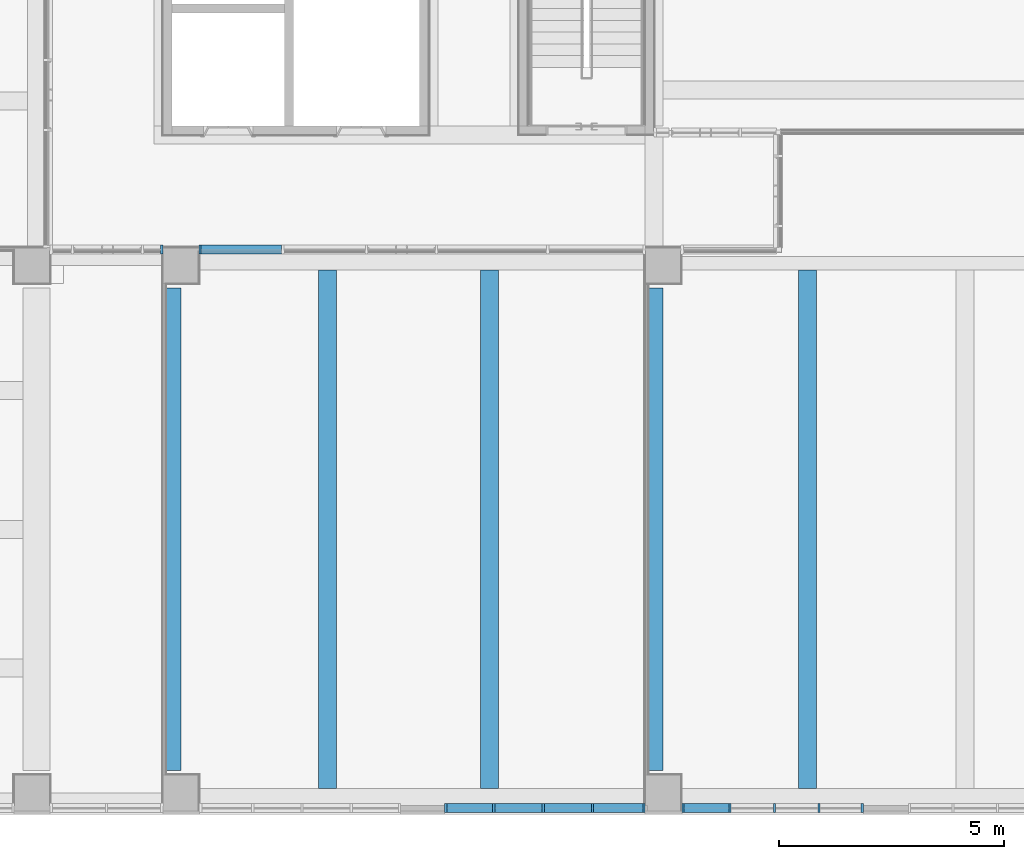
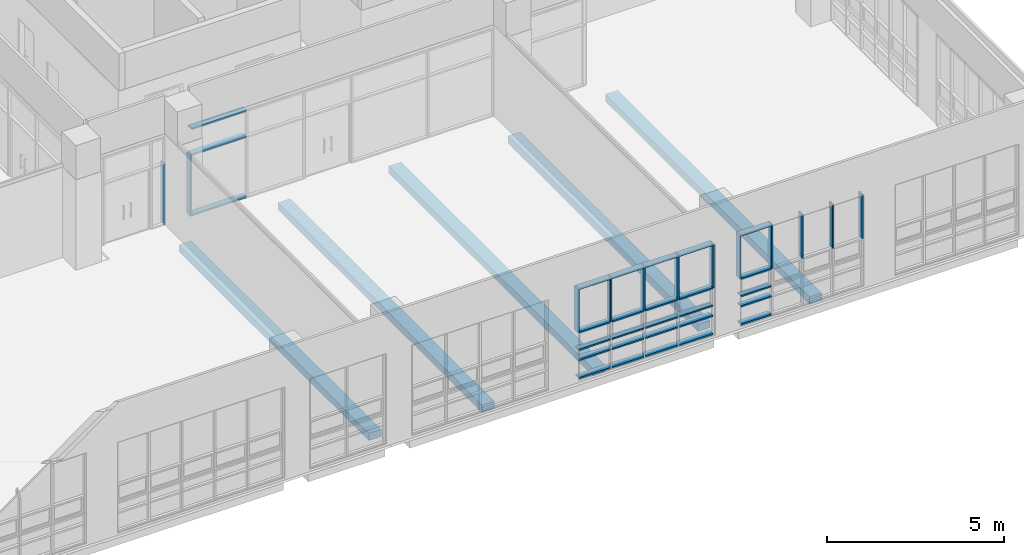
# One storey, part 5 of 74: 40 members, 5 beams, 4 elements without a shape of their own.
"""IFC2X3 building model written with IfcOpenShell, lengths in millimetres."""

import ifcopenshell
import ifcopenshell.guid

model = None  # the IFC model being written
_history = None  # IfcOwnerHistory: only IFC2X3 demands one
_inside = {}  # id of a spatial element -> (the spatial element, [elements in it])
_under = {}  # id of a project, library or spatial element -> (it, [spatial elements below it])
_declared = {}  # id of a project -> (the project, [libraries it declares])
_typed = {}  # id of a type object -> (the type object, [elements of that type])
_made_of = {}  # id of a material, layer set ... -> (it, [elements and type objects made of it])


def new_model(schema):
    """Start an empty IFC model of exactly this schema.

    Asked for "IFC4X3", IfcOpenShell would pick the latest addendum, in which some entities
    have other attributes; the version numbers below select the first issue.
    IFC2X3 requires an IfcOwnerHistory on every rooted entity: one is made here for all.
    """
    global model, _history
    if schema == "IFC4X3":
        model = ifcopenshell.file(schema_version=(4, 3, 0, 0))
    else:
        model = ifcopenshell.file(schema=schema)
    _inside.clear()
    _under.clear()
    _declared.clear()
    _typed.clear()
    _made_of.clear()
    _history = None
    if model.schema == "IFC2X3":
        org = make("IfcOrganization", Name="unknown")
        user = make(
            "IfcPersonAndOrganization",
            ThePerson=make("IfcPerson", FamilyName="unknown"),
            TheOrganization=org,
        )
        app = make(
            "IfcApplication",
            ApplicationDeveloper=org,
            Version="unknown",
            ApplicationFullName="unknown",
            ApplicationIdentifier="unknown",
        )
        _history = make(
            "IfcOwnerHistory",
            OwningUser=user,
            OwningApplication=app,
            ChangeAction="ADDED",
            CreationDate=0,
        )
    return model


def make(cls, **values):
    """One entity of the class cls with the attributes given. An attribute that is None is left unset."""
    return model.create_entity(
        cls, **{name: value for name, value in values.items() if value is not None}
    )


def entity(cls, *values):
    """Any entity or typed value of the class cls, its attributes in the order of the schema. None: left unset."""
    e = model.create_entity(cls)
    for i, value in enumerate(values):
        if value is not None:
            e[i] = value
    return e


def rooted(cls, **values):
    """An entity with a GlobalId (a new one), such as an element, a storey or a relation."""
    return make(cls, GlobalId=ifcopenshell.guid.new(), OwnerHistory=_history, **values)


def si_unit(unit_type, name, prefix=None):
    """IfcSIUnit, for example si_unit("LENGTHUNIT", "METRE", prefix="MILLI")."""
    return make("IfcSIUnit", UnitType=unit_type, Prefix=prefix, Name=name)


def converted_unit(unit_type, name, factor, base, dimensions=None, offset=None):
    """IfcConversionBasedUnit, such as the inch: factor (a typed value) times the base unit."""
    return make(
        "IfcConversionBasedUnit"
        if offset is None
        else "IfcConversionBasedUnitWithOffset",
        ConversionOffset=offset,
        Dimensions=None
        if dimensions is None
        else entity("IfcDimensionalExponents", *dimensions),
        UnitType=unit_type,
        Name=name,
        ConversionFactor=make(
            "IfcMeasureWithUnit", ValueComponent=factor, UnitComponent=base
        ),
    )


def derived_unit(unit_type, elements):
    """IfcDerivedUnit: a product of units, each with its exponent."""
    return make(
        "IfcDerivedUnit",
        Elements=[
            make("IfcDerivedUnitElement", Unit=unit, Exponent=power)
            for unit, power in elements
        ],
        UnitType=unit_type,
    )


def assignment(units):
    """IfcUnitAssignment: the units of a project."""
    return None if units is None else make("IfcUnitAssignment", Units=units)


def point(xyz):
    """IfcCartesianPoint."""
    return None if xyz is None else make("IfcCartesianPoint", Coordinates=xyz)


def direction(xyz):
    """IfcDirection."""
    return None if xyz is None else make("IfcDirection", DirectionRatios=xyz)


def frame(location, z_axis=None, x_axis=None):
    """IfcAxis2Placement3D, a coordinate frame: its origin and axes. An axis left out is left unset."""
    return make(
        "IfcAxis2Placement3D",
        Location=point(location),
        Axis=direction(z_axis),
        RefDirection=direction(x_axis),
    )


def frame_2d(location, x_axis=None):
    """IfcAxis2Placement2D, a coordinate frame in the plane: its origin and x axis."""
    return make(
        "IfcAxis2Placement2D", Location=point(location), RefDirection=direction(x_axis)
    )


def origin():
    """The frame at (0, 0, 0) with its axes left unset."""
    return frame((0.0, 0.0, 0.0))


def origin_2d_with_axis():
    """The frame at (0, 0) in the plane with the x axis (1, 0) written out."""
    return frame_2d((0.0, 0.0), x_axis=(1.0, 0.0))


def place(relative_to, where):
    """IfcLocalPlacement: puts the frame where relative to a parent placement (None: the world)."""
    return make(
        "IfcLocalPlacement", PlacementRelTo=relative_to, RelativePlacement=where
    )


def context(
    kind, dimensions, precision=None, world=None, true_north=None, identifier=None
):
    """IfcGeometricRepresentationContext, for example the 3D "Model" context."""
    return make(
        "IfcGeometricRepresentationContext",
        ContextIdentifier=identifier,
        ContextType=kind,
        CoordinateSpaceDimension=dimensions,
        Precision=precision,
        WorldCoordinateSystem=world,
        TrueNorth=true_north,
    )


def subcontext(parent, identifier, kind, view, scale=None):
    """IfcGeometricRepresentationSubContext, for example "Body" below "Model"."""
    return make(
        "IfcGeometricRepresentationSubContext",
        ContextIdentifier=identifier,
        ContextType=kind,
        ParentContext=parent,
        TargetScale=scale,
        TargetView=view,
    )


def project(units=None, contexts=None):
    """IfcProject with its units and contexts."""
    return rooted(
        "IfcProject",
        Name="project",
        RepresentationContexts=contexts,
        UnitsInContext=assignment(units),
    )


def spatial(cls, under=None, at=None, **own):
    """A site, building, storey or space (cls), placed at a placement, below another one or the project."""
    s = rooted(cls, ObjectPlacement=at, **own)
    if under is not None:
        _under.setdefault(under.id(), (under, []))[1].append(s)
    return s


def profile(cls, at=None, kind="AREA", **sizes):
    """A parametric profile (cls). Its sizes go by their IFC names, for example OverallWidth=200.0."""
    return make(cls, ProfileType=kind, Position=at, **sizes)


def rectangle(**sizes):
    """IfcRectangleProfileDef."""
    return profile("IfcRectangleProfileDef", **sizes)


def extrude(swept, where, along, depth):
    """IfcExtrudedAreaSolid: the profile swept, set in the frame where, extruded along a direction by depth."""
    return make(
        "IfcExtrudedAreaSolid",
        SweptArea=swept,
        Position=where,
        ExtrudedDirection=direction(along),
        Depth=depth,
    )


def shape(context_of_items, identifier, shape_type, items):
    """IfcShapeRepresentation: the items that make up one representation, for example the "Body"."""
    return make(
        "IfcShapeRepresentation",
        ContextOfItems=context_of_items,
        RepresentationIdentifier=identifier,
        RepresentationType=shape_type,
        Items=items,
    )


def source(mapping_origin, context_of_items, identifier, shape_type, items):
    """IfcRepresentationMap: a shape defined once, which mapped items show again and again."""
    return make(
        "IfcRepresentationMap",
        MappingOrigin=mapping_origin,
        MappedRepresentation=shape(context_of_items, identifier, shape_type, items),
    )


def transform(
    local_origin,
    x_axis=None,
    y_axis=None,
    z_axis=None,
    scale=None,
    scale2=None,
    scale3=None,
    uniform=True,
):
    """IfcCartesianTransformationOperator3D, or its non-uniform kind. x_axis, y_axis, z_axis: its Axis1, 2, 3."""
    if uniform:
        return make(
            "IfcCartesianTransformationOperator3D",
            Axis1=direction(x_axis),
            Axis2=direction(y_axis),
            LocalOrigin=point(local_origin),
            Scale=scale,
            Axis3=direction(z_axis),
        )
    return make(
        "IfcCartesianTransformationOperator3DnonUniform",
        Axis1=direction(x_axis),
        Axis2=direction(y_axis),
        LocalOrigin=point(local_origin),
        Scale=scale,
        Axis3=direction(z_axis),
        Scale2=scale2,
        Scale3=scale3,
    )


def mapped(mapping_source, mapping_target):
    """IfcMappedItem: shows the shape of a source again, moved by a transform."""
    return make(
        "IfcMappedItem", MappingSource=mapping_source, MappingTarget=mapping_target
    )


def material(Name=None, Category=None):
    """IfcMaterial."""
    return make("IfcMaterial", Name=Name, Category=Category)


def made_of(thing, what):
    """Note that an element or type object is made of a material, layer set ...; save() writes the relation."""
    if what is not None:
        _made_of.setdefault(what.id(), (what, []))[1].append(thing)
    return thing


def type_object(cls, material=None, **own):
    """A type object (cls), such as IfcWallType, which elements share."""
    return made_of(rooted(cls, **own), material)


def type_shapes(of_type, sources):
    """Give a type object the sources (RepresentationMaps) that its elements show as mapped items."""
    of_type.RepresentationMaps = sources


def element(
    cls,
    number,
    at=None,
    inside=None,
    cuts=None,
    type_object=None,
    material=None,
    context=None,
    identifier="Body",
    shape_type=None,
    held_by="IfcProductDefinitionShape",
    body=None,
    shapes=None,
    **own,
):
    """One element of the class cls, such as IfcWall. Its Tag is "e" and its number.

    at: its placement. inside: the storey or other place that contains it. cuts: it is an
    opening in that element (IfcRelVoidsElement). A single representation is given by context,
    identifier, shape_type and body (its items); several are given by shapes. held_by: the class
    of the entity that holds the representations. save() writes the other relations.
    """
    e = rooted(cls, Tag="e%d" % number, ObjectPlacement=at, **own)
    if body is not None:
        shapes = [shape(context, identifier, shape_type, body)]
    if shapes is not None:
        e.Representation = make(held_by, Representations=shapes)
    if inside is not None:
        _inside.setdefault(inside.id(), (inside, []))[1].append(e)
    if cuts is not None:
        rooted(
            "IfcRelVoidsElement", RelatingBuildingElement=cuts, RelatedOpeningElement=e
        )
    if type_object is not None:
        _typed.setdefault(type_object.id(), (type_object, []))[1].append(e)
    return made_of(e, material)


def aggregate(whole, parts):
    """IfcRelAggregates: a whole, such as a stair, and the parts it consists of."""
    return rooted("IfcRelAggregates", RelatingObject=whole, RelatedObjects=parts)


def save(model, path):
    """Write the relations noted so far, then the file.

    IfcRelAggregates (storeys below a building ...), IfcRelContainedInSpatialStructure (elements
    in a storey), IfcRelDefinesByType, IfcRelAssociatesMaterial and IfcRelDeclares: one each for
    every whole, place, type object, material and project.
    """
    for whole, parts in _under.values():
        aggregate(whole, parts)
    for where, things in _inside.values():
        rooted(
            "IfcRelContainedInSpatialStructure",
            RelatedElements=things,
            RelatingStructure=where,
        )
    for kind, things in _typed.values():
        rooted("IfcRelDefinesByType", RelatedObjects=things, RelatingType=kind)
    for what, things in _made_of.values():
        rooted("IfcRelAssociatesMaterial", RelatedObjects=things, RelatingMaterial=what)
    for by, libraries in _declared.values():
        rooted("IfcRelDeclares", RelatingContext=by, RelatedDefinitions=libraries)
    model.write(path)


model = new_model("IFC2X3")

# Units and contexts
model_context = context("Model", 3, precision=0.01, world=origin(), true_north=direction((6.123031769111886e-17, 1.0)))
body_context = subcontext(model_context, "Body", "Model", "MODEL_VIEW")
ifc_project = project(units=[si_unit("LENGTHUNIT", "METRE", prefix="MILLI"), si_unit("AREAUNIT", "SQUARE_METRE"), si_unit("VOLUMEUNIT", "CUBIC_METRE"), converted_unit("PLANEANGLEUNIT", "DEGREE", entity("IfcRatioMeasure", 0.017453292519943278), si_unit("PLANEANGLEUNIT", "RADIAN"), dimensions=[0, 0, 0, 0, 0, 0, 0]), si_unit("MASSUNIT", "GRAM", prefix="KILO"), derived_unit("MASSDENSITYUNIT", [(si_unit("MASSUNIT", "GRAM", prefix="KILO"), 1), (si_unit("LENGTHUNIT", "METRE"), -3)]), derived_unit("MOMENTOFINERTIAUNIT", [(si_unit("LENGTHUNIT", "METRE"), 4)]), si_unit("TIMEUNIT", "SECOND"), si_unit("FREQUENCYUNIT", "HERTZ"), si_unit("THERMODYNAMICTEMPERATUREUNIT", "DEGREE_CELSIUS"), derived_unit("THERMALTRANSMITTANCEUNIT", [(si_unit("MASSUNIT", "GRAM", prefix="KILO"), 1), (si_unit("THERMODYNAMICTEMPERATUREUNIT", "KELVIN"), -1), (si_unit("TIMEUNIT", "SECOND"), -3)]), derived_unit("VOLUMETRICFLOWRATEUNIT", [(si_unit("LENGTHUNIT", "METRE"), 3), (si_unit("TIMEUNIT", "SECOND"), -1)]), derived_unit("MASSFLOWRATEUNIT", [(si_unit("MASSUNIT", "GRAM", prefix="KILO"), 1), (si_unit("TIMEUNIT", "SECOND"), -1)]), derived_unit("ROTATIONALFREQUENCYUNIT", [(si_unit("TIMEUNIT", "SECOND"), -1)]), si_unit("ELECTRICCURRENTUNIT", "AMPERE"), si_unit("ELECTRICVOLTAGEUNIT", "VOLT"), si_unit("POWERUNIT", "WATT"), si_unit("FORCEUNIT", "NEWTON", prefix="KILO"), si_unit("ILLUMINANCEUNIT", "LUX"), si_unit("LUMINOUSFLUXUNIT", "LUMEN"), si_unit("LUMINOUSINTENSITYUNIT", "CANDELA"), derived_unit("USERDEFINED", [(si_unit("MASSUNIT", "GRAM", prefix="KILO"), -1), (si_unit("LENGTHUNIT", "METRE"), -2), (si_unit("TIMEUNIT", "SECOND"), 3), (si_unit("LUMINOUSFLUXUNIT", "LUMEN"), 1)]), derived_unit("SOUNDPOWERUNIT", [(si_unit("MASSUNIT", "GRAM", prefix="KILO"), 1), (si_unit("LENGTHUNIT", "METRE"), 2), (si_unit("TIMEUNIT", "SECOND"), -3)]), derived_unit("SOUNDPRESSUREUNIT", [(si_unit("MASSUNIT", "GRAM", prefix="KILO"), 1), (si_unit("LENGTHUNIT", "METRE"), -1), (si_unit("TIMEUNIT", "SECOND"), -2)]), derived_unit("LINEARVELOCITYUNIT", [(si_unit("LENGTHUNIT", "METRE"), 1), (si_unit("TIMEUNIT", "SECOND"), -1)]), si_unit("PRESSUREUNIT", "PASCAL"), derived_unit("USERDEFINED", [(si_unit("LENGTHUNIT", "METRE"), -2), (si_unit("MASSUNIT", "GRAM", prefix="KILO"), 1), (si_unit("TIMEUNIT", "SECOND"), -2)]), derived_unit("LINEARFORCEUNIT", [(si_unit("MASSUNIT", "GRAM", prefix="KILO"), 1), (si_unit("LENGTHUNIT", "METRE"), 1), (si_unit("TIMEUNIT", "SECOND"), -2), (si_unit("LENGTHUNIT", "METRE"), -1)]), derived_unit("PLANARFORCEUNIT", [(si_unit("MASSUNIT", "GRAM", prefix="KILO"), 1), (si_unit("LENGTHUNIT", "METRE"), 1), (si_unit("TIMEUNIT", "SECOND"), -2), (si_unit("LENGTHUNIT", "METRE"), -2)])], contexts=[model_context])

# Site, building, storey
site_placement = place(None, frame((-14167.972527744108, -657.2125860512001, 0.0)))
site = spatial("IfcSite", under=ifc_project, at=site_placement, Name="Default", CompositionType="ELEMENT")
building_placement = place(site_placement, origin())
building = spatial("IfcBuilding", under=site, at=building_placement, Name="Sample Building", CompositionType="ELEMENT")
storey_placement = place(building_placement, frame((0.0, 0.0, 4800.0)))
storey = spatial("IfcBuildingStorey", under=building, at=storey_placement, Name="지상 2층", CompositionType="ELEMENT", Elevation=4800.000000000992)

# Curtain wall, member
curtain_wall_type = type_object("IfcCurtainWallType", Name="커튼월:CW112-스테인리스 스틸 커튼월", PredefinedType="NOTDEFINED")
curtain_wall_1_placement = place(storey_placement, frame((0.0, 0.0, -4800.0)))
curtain_wall_1 = element("IfcCurtainWall", 1, at=curtain_wall_1_placement, inside=storey, type_object=curtain_wall_type, Name="커튼월:CW112-스테인리스 스틸 커튼월", ObjectType="커튼월:CW112-스테인리스 스틸 커튼월")
ifc_material_1 = material(Name="<Unnamed>")
member_type_1 = type_object("IfcMemberType", Name="직사각형 멀리언:CW200-직사각형 멀리언 50x200mm", PredefinedType="MULLION", material=ifc_material_1)
shared_shape_1 = source(origin(), body_context, "Body", "SweptSolid", [
    extrude(rectangle(XDim=200.0, YDim=50.0, at=origin_2d_with_axis()), frame((-25.0, 0.0, -2100.0), z_axis=(0.0, 0.0, 1.0), x_axis=(0.0, -1.0, 0.0)), (0.0, 0.0, 1.0), 2099.9999999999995),
])
type_shapes(member_type_1, [shared_shape_1])
member_1_placement = place(curtain_wall_1_placement, frame((30867.97249113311, 13012.212307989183, 6980.0), z_axis=(0.0, 0.0, 1.0), x_axis=(-1.0, 0.0, 0.0)))
member_1 = element("IfcMember", 2, at=member_1_placement, type_object=member_type_1, material=ifc_material_1, Name="직사각형 멀리언:CW200-직사각형 멀리언 50x200mm", ObjectType="직사각형 멀리언:CW200-직사각형 멀리언 50x200mm", context=body_context, shape_type="MappedRepresentation", body=[
    mapped(shared_shape_1, transform((0.0, 0.0, 0.0), scale=1.0)),
])

curtain_wall_2_placement = place(storey_placement, frame((0.0, 0.0, -4800.0)))
curtain_wall_2 = element("IfcCurtainWall", 3, at=curtain_wall_2_placement, inside=storey, type_object=curtain_wall_type, Name="커튼월:CW112-스테인리스 스틸 커튼월", ObjectType="커튼월:CW112-스테인리스 스틸 커튼월")
member_type_2 = type_object("IfcMemberType", Name="직사각형 멀리언:CW200-직사각형 멀리언 50x200mm", PredefinedType="MULLION", material=ifc_material_1)
shared_shape_2 = source(origin(), body_context, "Body", "SweptSolid", [
    extrude(rectangle(XDim=200.0, YDim=50.0, at=origin_2d_with_axis()), frame((-25.0, 0.0, -1520.0), z_axis=(0.0, 0.0, 1.0), x_axis=(0.0, -1.0, 0.0)), (0.0, 0.0, 1.0), 1520.0000000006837),
])
type_shapes(member_type_2, [shared_shape_2])
member_2_placement = place(curtain_wall_2_placement, frame((36318.14751886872, 619.7122951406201, 8000.0), z_axis=(0.0, 0.0, 1.0), x_axis=(-1.0, 0.0, 0.0)))
member_2 = element("IfcMember", 4, at=member_2_placement, type_object=member_type_2, material=ifc_material_1, Name="직사각형 멀리언:CW200-직사각형 멀리언 50x200mm", ObjectType="직사각형 멀리언:CW200-직사각형 멀리언 50x200mm", context=body_context, shape_type="MappedRepresentation", body=[
    mapped(shared_shape_2, transform((0.0, 0.0, 0.0), scale=1.0)),
])

curtain_wall_3_placement = place(storey_placement, frame((0.0, 0.0, -4800.0)))
curtain_wall_3 = element("IfcCurtainWall", 5, at=curtain_wall_3_placement, inside=storey, type_object=curtain_wall_type, Name="커튼월:CW112-스테인리스 스틸 커튼월", ObjectType="커튼월:CW112-스테인리스 스틸 커튼월")
member_3_placement = place(curtain_wall_3_placement, frame((41585.972491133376, 619.7122951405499, 8000.0), z_axis=(0.0, 0.0, 1.0), x_axis=(-1.0, 0.0, 0.0)))
member_3 = element("IfcMember", 6, at=member_3_placement, type_object=member_type_2, material=ifc_material_1, Name="직사각형 멀리언:CW200-직사각형 멀리언 50x200mm", ObjectType="직사각형 멀리언:CW200-직사각형 멀리언 50x200mm", context=body_context, shape_type="MappedRepresentation", body=[
    mapped(shared_shape_2, transform((0.0, 0.0, 0.0), scale=1.0)),
])

# Member
member_type_3 = type_object("IfcMemberType", Name="직사각형 멀리언:CW200-직사각형 멀리언 50x200mm", PredefinedType="MULLION", material=ifc_material_1)
shared_shape_3 = source(origin(), body_context, "Body", "SweptSolid", [
    extrude(rectangle(XDim=200.0, YDim=50.0, at=origin_2d_with_axis()), frame((-25.0, 0.0, -1520.0), z_axis=(0.0, 0.0, 1.0), x_axis=(0.0, -1.0, 0.0)), (0.0, 0.0, 1.0), 1520.0000000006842),
])
type_shapes(member_type_3, [shared_shape_3])
member_4_placement = place(curtain_wall_2_placement, frame((40767.97249113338, 619.7122951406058, 6480.0), z_axis=(0.0, 0.0, -1.0), x_axis=(1.0, 0.0, 0.0)))
member_4 = element("IfcMember", 7, at=member_4_placement, type_object=member_type_3, material=ifc_material_1, Name="직사각형 멀리언:CW200-직사각형 멀리언 50x200mm", ObjectType="직사각형 멀리언:CW200-직사각형 멀리언 50x200mm", context=body_context, shape_type="MappedRepresentation", body=[
    mapped(shared_shape_3, transform((0.0, 0.0, 0.0), scale=1.0)),
])

member_5_placement = place(curtain_wall_3_placement, frame((45612.07127232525, 619.712295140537, 6480.0), z_axis=(0.0, 0.0, -1.0), x_axis=(1.0, 0.0, 0.0)))
member_5 = element("IfcMember", 8, at=member_5_placement, type_object=member_type_3, material=ifc_material_1, Name="직사각형 멀리언:CW200-직사각형 멀리언 50x200mm", ObjectType="직사각형 멀리언:CW200-직사각형 멀리언 50x200mm", context=body_context, shape_type="MappedRepresentation", body=[
    mapped(shared_shape_3, transform((0.0, 0.0, 0.0), scale=1.0)),
])

member_type_4 = type_object("IfcMemberType", Name="직사각형 멀리언:CW200-직사각형 멀리언 50x200mm", PredefinedType="MULLION", material=ifc_material_1)
shared_shape_4 = source(origin(), body_context, "Body", "SweptSolid", [
    extrude(rectangle(XDim=200.0, YDim=50.0, at=origin_2d_with_axis()), frame((0.0, 0.0, -1520.0), z_axis=(0.0, 0.0, 1.0), x_axis=(0.0, -1.0, 0.0)), (0.0, 0.0, 1.0), 1520.0000000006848),
])
type_shapes(member_type_4, [shared_shape_4])
member_6_placement = place(curtain_wall_2_placement, frame((37411.89751886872, 619.7122951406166, 6480.0), z_axis=(0.0, 0.0, -1.0), x_axis=(1.0, 0.0, 0.0)))
member_6 = element("IfcMember", 9, at=member_6_placement, type_object=member_type_4, material=ifc_material_1, Name="직사각형 멀리언:CW200-직사각형 멀리언 50x200mm", ObjectType="직사각형 멀리언:CW200-직사각형 멀리언 50x200mm", context=body_context, shape_type="MappedRepresentation", body=[
    mapped(shared_shape_4, transform((0.0, 0.0, 0.0), scale=1.0)),
])

member_7_placement = place(curtain_wall_2_placement, frame((38505.64751886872, 619.712295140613, 6480.0), z_axis=(0.0, 0.0, -1.0), x_axis=(1.0, 0.0, 0.0)))
member_7 = element("IfcMember", 10, at=member_7_placement, type_object=member_type_4, material=ifc_material_1, Name="직사각형 멀리언:CW200-직사각형 멀리언 50x200mm", ObjectType="직사각형 멀리언:CW200-직사각형 멀리언 50x200mm", context=body_context, shape_type="MappedRepresentation", body=[
    mapped(shared_shape_4, transform((0.0, 0.0, 0.0), scale=1.0)),
])

member_8_placement = place(curtain_wall_2_placement, frame((39599.39751886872, 619.7122951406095, 6480.0), z_axis=(0.0, 0.0, -1.0), x_axis=(1.0, 0.0, 0.0)))
member_8 = element("IfcMember", 11, at=member_8_placement, type_object=member_type_4, material=ifc_material_1, Name="직사각형 멀리언:CW200-직사각형 멀리언 50x200mm", ObjectType="직사각형 멀리언:CW200-직사각형 멀리언 50x200mm", context=body_context, shape_type="MappedRepresentation", body=[
    mapped(shared_shape_4, transform((0.0, 0.0, 0.0), scale=1.0)),
])

member_9_placement = place(curtain_wall_3_placement, frame((42649.57127232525, 619.7122951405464, 6480.0), z_axis=(0.0, 0.0, -1.0), x_axis=(1.0, 0.0, 0.0)))
member_9 = element("IfcMember", 12, at=member_9_placement, type_object=member_type_4, material=ifc_material_1, Name="직사각형 멀리언:CW200-직사각형 멀리언 50x200mm", ObjectType="직사각형 멀리언:CW200-직사각형 멀리언 50x200mm", context=body_context, shape_type="MappedRepresentation", body=[
    mapped(shared_shape_4, transform((0.0, 0.0, 0.0), scale=1.0)),
])

member_10_placement = place(curtain_wall_3_placement, frame((43637.07127232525, 619.7122951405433, 6480.0), z_axis=(0.0, 0.0, -1.0), x_axis=(1.0, 0.0, 0.0)))
member_10 = element("IfcMember", 13, at=member_10_placement, type_object=member_type_4, material=ifc_material_1, Name="직사각형 멀리언:CW200-직사각형 멀리언 50x200mm", ObjectType="직사각형 멀리언:CW200-직사각형 멀리언 50x200mm", context=body_context, shape_type="MappedRepresentation", body=[
    mapped(shared_shape_4, transform((0.0, 0.0, 0.0), scale=1.0)),
])

member_11_placement = place(curtain_wall_3_placement, frame((44624.57127232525, 619.7122951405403, 6480.0), z_axis=(0.0, 0.0, -1.0), x_axis=(1.0, 0.0, 0.0)))
member_11 = element("IfcMember", 14, at=member_11_placement, type_object=member_type_4, material=ifc_material_1, Name="직사각형 멀리언:CW200-직사각형 멀리언 50x200mm", ObjectType="직사각형 멀리언:CW200-직사각형 멀리언 50x200mm", context=body_context, shape_type="MappedRepresentation", body=[
    mapped(shared_shape_4, transform((0.0, 0.0, 0.0), scale=1.0)),
])

member_type_5 = type_object("IfcMemberType", Name="직사각형 멀리언:CW200-직사각형 멀리언 50x200mm", PredefinedType="MULLION", material=ifc_material_1)
shared_shape_5 = source(origin(), body_context, "Body", "SweptSolid", [
    extrude(rectangle(XDim=200.0, YDim=50.0, at=origin_2d_with_axis()), frame((-25.0, 0.0, -1018.7499999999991), z_axis=(0.0, 0.0, 1.0), x_axis=(0.0, -1.0, 0.0)), (0.0, 0.0, 1.0), 1018.7499999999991),
])
type_shapes(member_type_5, [shared_shape_5])
member_12_placement = place(curtain_wall_2_placement, frame((37386.89751886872, 619.7122951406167, 8000.0), z_axis=(1.0, 0.0, 0.0), x_axis=(0.0, 0.0, 1.0)))
member_12 = element("IfcMember", 15, at=member_12_placement, type_object=member_type_5, material=ifc_material_1, Name="직사각형 멀리언:CW200-직사각형 멀리언 50x200mm", ObjectType="직사각형 멀리언:CW200-직사각형 멀리언 50x200mm", context=body_context, shape_type="MappedRepresentation", body=[
    mapped(shared_shape_5, transform((0.0, 0.0, 0.0), scale=1.0)),
])

member_type_6 = type_object("IfcMemberType", Name="직사각형 멀리언:CW200-직사각형 멀리언 50x200mm", PredefinedType="MULLION", material=ifc_material_1)
shared_shape_6 = source(origin(), body_context, "Body", "SweptSolid", [
    extrude(rectangle(XDim=200.0, YDim=50.0, at=origin_2d_with_axis()), frame((-25.0, 0.0, -1043.7499999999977), z_axis=(0.0, 0.0, 1.0), x_axis=(0.0, -1.0, 0.0)), (0.0, 0.0, 1.0), 1043.7499999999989),
])
type_shapes(member_type_6, [shared_shape_6])
member_13_placement = place(curtain_wall_2_placement, frame((37436.89751886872, 619.7122951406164, 4880.0), z_axis=(-1.0, 0.0, 0.0), x_axis=(0.0, 0.0, -1.0)))
member_13 = element("IfcMember", 16, at=member_13_placement, type_object=member_type_6, material=ifc_material_1, Name="직사각형 멀리언:CW200-직사각형 멀리언 50x200mm", ObjectType="직사각형 멀리언:CW200-직사각형 멀리언 50x200mm", context=body_context, shape_type="MappedRepresentation", body=[
    mapped(shared_shape_6, transform((0.0, 0.0, 0.0), scale=1.0)),
])

member_14_placement = place(curtain_wall_2_placement, frame((38530.64751886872, 619.7122951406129, 4880.0), z_axis=(-1.0, 0.0, 0.0), x_axis=(0.0, 0.0, -1.0)))
member_14 = element("IfcMember", 17, at=member_14_placement, type_object=member_type_6, material=ifc_material_1, Name="직사각형 멀리언:CW200-직사각형 멀리언 50x200mm", ObjectType="직사각형 멀리언:CW200-직사각형 멀리언 50x200mm", context=body_context, shape_type="MappedRepresentation", body=[
    mapped(shared_shape_6, transform((0.0, 0.0, 0.0), scale=1.0)),
])

member_type_7 = type_object("IfcMemberType", Name="직사각형 멀리언:CW200-직사각형 멀리언 50x200mm", PredefinedType="MULLION", material=ifc_material_1)
shared_shape_7 = source(origin(), body_context, "Body", "SweptSolid", [
    extrude(rectangle(XDim=200.0, YDim=50.0, at=origin_2d_with_axis()), frame((-25.0, 0.0, -1043.7500000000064), z_axis=(0.0, 0.0, 1.0), x_axis=(0.0, -1.0, 0.0)), (0.0, 0.0, 1.0), 1043.7500000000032),
])
type_shapes(member_type_7, [shared_shape_7])
member_15_placement = place(curtain_wall_2_placement, frame((38480.64751886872, 619.7122951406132, 8000.0), z_axis=(1.0, 0.0, 0.0), x_axis=(0.0, 0.0, 1.0)))
member_15 = element("IfcMember", 18, at=member_15_placement, type_object=member_type_7, material=ifc_material_1, Name="직사각형 멀리언:CW200-직사각형 멀리언 50x200mm", ObjectType="직사각형 멀리언:CW200-직사각형 멀리언 50x200mm", context=body_context, shape_type="MappedRepresentation", body=[
    mapped(shared_shape_7, transform((0.0, 0.0, 0.0), scale=1.0)),
])

member_16_placement = place(curtain_wall_2_placement, frame((39574.39751886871, 619.7122951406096, 8000.0), z_axis=(1.0, 0.0, 0.0), x_axis=(0.0, 0.0, 1.0)))
member_16 = element("IfcMember", 19, at=member_16_placement, type_object=member_type_7, material=ifc_material_1, Name="직사각형 멀리언:CW200-직사각형 멀리언 50x200mm", ObjectType="직사각형 멀리언:CW200-직사각형 멀리언 50x200mm", context=body_context, shape_type="MappedRepresentation", body=[
    mapped(shared_shape_7, transform((0.0, 0.0, 0.0), scale=1.0)),
])

member_type_8 = type_object("IfcMemberType", Name="직사각형 멀리언:CW200-직사각형 멀리언 50x200mm", PredefinedType="MULLION", material=ifc_material_1)
shared_shape_8 = source(origin(), body_context, "Body", "SweptSolid", [
    extrude(rectangle(XDim=200.0, YDim=50.0, at=origin_2d_with_axis()), frame((0.0, 0.0, -1043.7500000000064), z_axis=(0.0, 0.0, 1.0), x_axis=(0.0, -1.0, 0.0)), (0.0, 0.0, 1.0), 1043.7500000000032),
])
type_shapes(member_type_8, [shared_shape_8])
member_17_placement = place(curtain_wall_2_placement, frame((38480.64751886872, 619.7122951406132, 6480.0), z_axis=(1.0, 0.0, 0.0), x_axis=(0.0, 0.0, 1.0)))
member_17 = element("IfcMember", 20, at=member_17_placement, type_object=member_type_8, material=ifc_material_1, Name="직사각형 멀리언:CW200-직사각형 멀리언 50x200mm", ObjectType="직사각형 멀리언:CW200-직사각형 멀리언 50x200mm", context=body_context, shape_type="MappedRepresentation", body=[
    mapped(shared_shape_8, transform((0.0, 0.0, 0.0), scale=1.0)),
])

member_18_placement = place(curtain_wall_2_placement, frame((38480.64751886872, 619.7122951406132, 5880.0), z_axis=(1.0, 0.0, 0.0), x_axis=(0.0, 0.0, 1.0)))
member_18 = element("IfcMember", 21, at=member_18_placement, type_object=member_type_8, material=ifc_material_1, Name="직사각형 멀리언:CW200-직사각형 멀리언 50x200mm", ObjectType="직사각형 멀리언:CW200-직사각형 멀리언 50x200mm", context=body_context, shape_type="MappedRepresentation", body=[
    mapped(shared_shape_8, transform((0.0, 0.0, 0.0), scale=1.0)),
])

member_19_placement = place(curtain_wall_2_placement, frame((38480.64751886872, 619.7122951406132, 5530.0), z_axis=(1.0, 0.0, 0.0), x_axis=(0.0, 0.0, 1.0)))
member_19 = element("IfcMember", 22, at=member_19_placement, type_object=member_type_8, material=ifc_material_1, Name="직사각형 멀리언:CW200-직사각형 멀리언 50x200mm", ObjectType="직사각형 멀리언:CW200-직사각형 멀리언 50x200mm", context=body_context, shape_type="MappedRepresentation", body=[
    mapped(shared_shape_8, transform((0.0, 0.0, 0.0), scale=1.0)),
])

member_20_placement = place(curtain_wall_2_placement, frame((39574.39751886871, 619.7122951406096, 5530.0), z_axis=(1.0, 0.0, 0.0), x_axis=(0.0, 0.0, 1.0)))
member_20 = element("IfcMember", 23, at=member_20_placement, type_object=member_type_8, material=ifc_material_1, Name="직사각형 멀리언:CW200-직사각형 멀리언 50x200mm", ObjectType="직사각형 멀리언:CW200-직사각형 멀리언 50x200mm", context=body_context, shape_type="MappedRepresentation", body=[
    mapped(shared_shape_8, transform((0.0, 0.0, 0.0), scale=1.0)),
])

member_21_placement = place(curtain_wall_2_placement, frame((39574.39751886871, 619.7122951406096, 5880.0), z_axis=(1.0, 0.0, 0.0), x_axis=(0.0, 0.0, 1.0)))
member_21 = element("IfcMember", 24, at=member_21_placement, type_object=member_type_8, material=ifc_material_1, Name="직사각형 멀리언:CW200-직사각형 멀리언 50x200mm", ObjectType="직사각형 멀리언:CW200-직사각형 멀리언 50x200mm", context=body_context, shape_type="MappedRepresentation", body=[
    mapped(shared_shape_8, transform((0.0, 0.0, 0.0), scale=1.0)),
])

member_22_placement = place(curtain_wall_2_placement, frame((39574.39751886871, 619.7122951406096, 6480.0), z_axis=(1.0, 0.0, 0.0), x_axis=(0.0, 0.0, 1.0)))
member_22 = element("IfcMember", 25, at=member_22_placement, type_object=member_type_8, material=ifc_material_1, Name="직사각형 멀리언:CW200-직사각형 멀리언 50x200mm", ObjectType="직사각형 멀리언:CW200-직사각형 멀리언 50x200mm", context=body_context, shape_type="MappedRepresentation", body=[
    mapped(shared_shape_8, transform((0.0, 0.0, 0.0), scale=1.0)),
])

member_type_9 = type_object("IfcMemberType", Name="직사각형 멀리언:CW200-직사각형 멀리언 50x200mm", PredefinedType="MULLION", material=ifc_material_1)
shared_shape_9 = source(origin(), body_context, "Body", "SweptSolid", [
    extrude(rectangle(XDim=200.0, YDim=50.0, at=origin_2d_with_axis()), frame((-25.0, 0.0, -1018.7499999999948), z_axis=(0.0, 0.0, 1.0), x_axis=(0.0, -1.0, 0.0)), (0.0, 0.0, 1.0), 1018.749999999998),
])
type_shapes(member_type_9, [shared_shape_9])
member_23_placement = place(curtain_wall_2_placement, frame((36368.147518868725, 619.71229514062, 4880.0), z_axis=(-1.0, 0.0, 0.0), x_axis=(0.0, 0.0, -1.0)))
member_23 = element("IfcMember", 26, at=member_23_placement, type_object=member_type_9, material=ifc_material_1, Name="직사각형 멀리언:CW200-직사각형 멀리언 50x200mm", ObjectType="직사각형 멀리언:CW200-직사각형 멀리언 50x200mm", context=body_context, shape_type="MappedRepresentation", body=[
    mapped(shared_shape_9, transform((0.0, 0.0, 0.0), scale=1.0)),
])

member_type_10 = type_object("IfcMemberType", Name="직사각형 멀리언:CW200-직사각형 멀리언 50x200mm", PredefinedType="MULLION", material=ifc_material_1)
shared_shape_10 = source(origin(), body_context, "Body", "SweptSolid", [
    extrude(rectangle(XDim=200.0, YDim=50.0, at=origin_2d_with_axis()), frame((0.0, 0.0, -1018.7500000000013), z_axis=(0.0, 0.0, 1.0), x_axis=(0.0, -1.0, 0.0)), (0.0, 0.0, 1.0), 1018.749999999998),
])
type_shapes(member_type_10, [shared_shape_10])
member_24_placement = place(curtain_wall_2_placement, frame((37386.89751886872, 619.7122951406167, 6480.0), z_axis=(1.0, 0.0, 0.0), x_axis=(0.0, 0.0, 1.0)))
member_24 = element("IfcMember", 27, at=member_24_placement, type_object=member_type_10, material=ifc_material_1, Name="직사각형 멀리언:CW200-직사각형 멀리언 50x200mm", ObjectType="직사각형 멀리언:CW200-직사각형 멀리언 50x200mm", context=body_context, shape_type="MappedRepresentation", body=[
    mapped(shared_shape_10, transform((0.0, 0.0, 0.0), scale=1.0)),
])

member_25_placement = place(curtain_wall_2_placement, frame((37386.89751886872, 619.7122951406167, 5880.0), z_axis=(1.0, 0.0, 0.0), x_axis=(0.0, 0.0, 1.0)))
member_25 = element("IfcMember", 28, at=member_25_placement, type_object=member_type_10, material=ifc_material_1, Name="직사각형 멀리언:CW200-직사각형 멀리언 50x200mm", ObjectType="직사각형 멀리언:CW200-직사각형 멀리언 50x200mm", context=body_context, shape_type="MappedRepresentation", body=[
    mapped(shared_shape_10, transform((0.0, 0.0, 0.0), scale=1.0)),
])

member_26_placement = place(curtain_wall_2_placement, frame((37386.89751886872, 619.7122951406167, 5530.0), z_axis=(1.0, 0.0, 0.0), x_axis=(0.0, 0.0, 1.0)))
member_26 = element("IfcMember", 29, at=member_26_placement, type_object=member_type_10, material=ifc_material_1, Name="직사각형 멀리언:CW200-직사각형 멀리언 50x200mm", ObjectType="직사각형 멀리언:CW200-직사각형 멀리언 50x200mm", context=body_context, shape_type="MappedRepresentation", body=[
    mapped(shared_shape_10, transform((0.0, 0.0, 0.0), scale=1.0)),
])

member_type_11 = type_object("IfcMemberType", Name="직사각형 멀리언:CW200-직사각형 멀리언 50x200mm", PredefinedType="MULLION", material=ifc_material_1)
shared_shape_11 = source(origin(), body_context, "Body", "SweptSolid", [
    extrude(rectangle(XDim=200.0, YDim=50.0, at=origin_2d_with_axis()), frame((-25.0, 0.0, -1093.5749722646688), z_axis=(0.0, 0.0, 1.0), x_axis=(0.0, -1.0, 0.0)), (0.0, 0.0, 1.0), 1093.5749722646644),
])
type_shapes(member_type_11, [shared_shape_11])
member_27_placement = place(curtain_wall_2_placement, frame((40717.97249113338, 619.7122951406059, 8000.0), z_axis=(1.0, 0.0, 0.0), x_axis=(0.0, 0.0, 1.0)))
member_27 = element("IfcMember", 30, at=member_27_placement, type_object=member_type_11, material=ifc_material_1, Name="직사각형 멀리언:CW200-직사각형 멀리언 50x200mm", ObjectType="직사각형 멀리언:CW200-직사각형 멀리언 50x200mm", context=body_context, shape_type="MappedRepresentation", body=[
    mapped(shared_shape_11, transform((0.0, 0.0, 0.0), scale=1.0)),
])

member_type_12 = type_object("IfcMemberType", Name="직사각형 멀리언:CW200-직사각형 멀리언 50x200mm", PredefinedType="MULLION", material=ifc_material_1)
shared_shape_12 = source(origin(), body_context, "Body", "SweptSolid", [
    extrude(rectangle(XDim=200.0, YDim=50.0, at=origin_2d_with_axis()), frame((-25.0, 0.0, -1093.574972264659), z_axis=(0.0, 0.0, 1.0), x_axis=(0.0, -1.0, 0.0)), (0.0, 0.0, 1.0), 1093.5749722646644),
])
type_shapes(member_type_12, [shared_shape_12])
member_28_placement = place(curtain_wall_2_placement, frame((39624.39751886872, 619.7122951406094, 4880.0), z_axis=(-1.0, 0.0, 0.0), x_axis=(0.0, 0.0, -1.0)))
member_28 = element("IfcMember", 31, at=member_28_placement, type_object=member_type_12, material=ifc_material_1, Name="직사각형 멀리언:CW200-직사각형 멀리언 50x200mm", ObjectType="직사각형 멀리언:CW200-직사각형 멀리언 50x200mm", context=body_context, shape_type="MappedRepresentation", body=[
    mapped(shared_shape_12, transform((0.0, 0.0, 0.0), scale=1.0)),
])

member_type_13 = type_object("IfcMemberType", Name="직사각형 멀리언:CW200-직사각형 멀리언 50x200mm", PredefinedType="MULLION", material=ifc_material_1)
shared_shape_13 = source(origin(), body_context, "Body", "SweptSolid", [
    extrude(rectangle(XDim=200.0, YDim=50.0, at=origin_2d_with_axis()), frame((0.0, 0.0, -1093.5749722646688), z_axis=(0.0, 0.0, 1.0), x_axis=(0.0, -1.0, 0.0)), (0.0, 0.0, 1.0), 1093.5749722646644),
])
type_shapes(member_type_13, [shared_shape_13])
member_29_placement = place(curtain_wall_2_placement, frame((40717.97249113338, 619.7122951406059, 5530.0), z_axis=(1.0, 0.0, 0.0), x_axis=(0.0, 0.0, 1.0)))
member_29 = element("IfcMember", 32, at=member_29_placement, type_object=member_type_13, material=ifc_material_1, Name="직사각형 멀리언:CW200-직사각형 멀리언 50x200mm", ObjectType="직사각형 멀리언:CW200-직사각형 멀리언 50x200mm", context=body_context, shape_type="MappedRepresentation", body=[
    mapped(shared_shape_13, transform((0.0, 0.0, 0.0), scale=1.0)),
])

member_30_placement = place(curtain_wall_2_placement, frame((40717.97249113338, 619.7122951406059, 5880.0), z_axis=(1.0, 0.0, 0.0), x_axis=(0.0, 0.0, 1.0)))
member_30 = element("IfcMember", 33, at=member_30_placement, type_object=member_type_13, material=ifc_material_1, Name="직사각형 멀리언:CW200-직사각형 멀리언 50x200mm", ObjectType="직사각형 멀리언:CW200-직사각형 멀리언 50x200mm", context=body_context, shape_type="MappedRepresentation", body=[
    mapped(shared_shape_13, transform((0.0, 0.0, 0.0), scale=1.0)),
])

member_31_placement = place(curtain_wall_2_placement, frame((40717.97249113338, 619.7122951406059, 6480.0), z_axis=(1.0, 0.0, 0.0), x_axis=(0.0, 0.0, 1.0)))
member_31 = element("IfcMember", 34, at=member_31_placement, type_object=member_type_13, material=ifc_material_1, Name="직사각형 멀리언:CW200-직사각형 멀리언 50x200mm", ObjectType="직사각형 멀리언:CW200-직사각형 멀리언 50x200mm", context=body_context, shape_type="MappedRepresentation", body=[
    mapped(shared_shape_13, transform((0.0, 0.0, 0.0), scale=1.0)),
])

aggregate(curtain_wall_2, [member_27, member_23, member_2, member_4, member_24, member_12, member_13, member_17, member_6, member_25, member_18, member_26, member_19, member_15, member_14, member_20, member_21, member_22, member_7, member_16, member_28, member_29, member_30, member_31, member_8])

member_type_14 = type_object("IfcMemberType", Name="직사각형 멀리언:CW200-직사각형 멀리언 50x200mm", PredefinedType="MULLION", material=ifc_material_1)
shared_shape_14 = source(origin(), body_context, "Body", "SweptSolid", [
    extrude(rectangle(XDim=200.0, YDim=50.0, at=origin_2d_with_axis()), frame((-25.0, 0.0, -988.5987811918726), z_axis=(0.0, 0.0, 1.0), x_axis=(0.0, -1.0, 0.0)), (0.0, 0.0, 1.0), 988.5987811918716),
])
type_shapes(member_type_14, [shared_shape_14])
member_32_placement = place(curtain_wall_3_placement, frame((41635.972491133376, 619.7122951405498, 4880.0), z_axis=(-1.0, 0.0, 0.0), x_axis=(0.0, 0.0, -1.0)))
member_32 = element("IfcMember", 35, at=member_32_placement, type_object=member_type_14, material=ifc_material_1, Name="직사각형 멀리언:CW200-직사각형 멀리언 50x200mm", ObjectType="직사각형 멀리언:CW200-직사각형 멀리언 50x200mm", context=body_context, shape_type="MappedRepresentation", body=[
    mapped(shared_shape_14, transform((0.0, 0.0, 0.0), scale=1.0)),
])

member_type_15 = type_object("IfcMemberType", Name="직사각형 멀리언:CW200-직사각형 멀리언 50x200mm", PredefinedType="MULLION", material=ifc_material_1)
shared_shape_15 = source(origin(), body_context, "Body", "SweptSolid", [
    extrude(rectangle(XDim=200.0, YDim=50.0, at=origin_2d_with_axis()), frame((0.0, 0.0, -988.5987811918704), z_axis=(0.0, 0.0, 1.0), x_axis=(0.0, -1.0, 0.0)), (0.0, 0.0, 1.0), 988.5987811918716),
])
type_shapes(member_type_15, [shared_shape_15])
member_33_placement = place(curtain_wall_3_placement, frame((42624.57127232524, 619.7122951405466, 6480.0), z_axis=(1.0, 0.0, 0.0), x_axis=(0.0, 0.0, 1.0)))
member_33 = element("IfcMember", 36, at=member_33_placement, type_object=member_type_15, material=ifc_material_1, Name="직사각형 멀리언:CW200-직사각형 멀리언 50x200mm", ObjectType="직사각형 멀리언:CW200-직사각형 멀리언 50x200mm", context=body_context, shape_type="MappedRepresentation", body=[
    mapped(shared_shape_15, transform((0.0, 0.0, 0.0), scale=1.0)),
])

member_34_placement = place(curtain_wall_3_placement, frame((42624.57127232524, 619.7122951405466, 5880.0), z_axis=(1.0, 0.0, 0.0), x_axis=(0.0, 0.0, 1.0)))
member_34 = element("IfcMember", 37, at=member_34_placement, type_object=member_type_15, material=ifc_material_1, Name="직사각형 멀리언:CW200-직사각형 멀리언 50x200mm", ObjectType="직사각형 멀리언:CW200-직사각형 멀리언 50x200mm", context=body_context, shape_type="MappedRepresentation", body=[
    mapped(shared_shape_15, transform((0.0, 0.0, 0.0), scale=1.0)),
])

member_35_placement = place(curtain_wall_3_placement, frame((42624.57127232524, 619.7122951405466, 5530.0), z_axis=(1.0, 0.0, 0.0), x_axis=(0.0, 0.0, 1.0)))
member_35 = element("IfcMember", 38, at=member_35_placement, type_object=member_type_15, material=ifc_material_1, Name="직사각형 멀리언:CW200-직사각형 멀리언 50x200mm", ObjectType="직사각형 멀리언:CW200-직사각형 멀리언 50x200mm", context=body_context, shape_type="MappedRepresentation", body=[
    mapped(shared_shape_15, transform((0.0, 0.0, 0.0), scale=1.0)),
])

member_type_16 = type_object("IfcMemberType", Name="직사각형 멀리언:CW200-직사각형 멀리언 50x200mm", PredefinedType="MULLION", material=ifc_material_1)
shared_shape_16 = source(origin(), body_context, "Body", "SweptSolid", [
    extrude(rectangle(XDim=200.0, YDim=50.0, at=origin_2d_with_axis()), frame((-25.0, 0.0, -988.5987811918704), z_axis=(0.0, 0.0, 1.0), x_axis=(0.0, -1.0, 0.0)), (0.0, 0.0, 1.0), 988.5987811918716),
])
type_shapes(member_type_16, [shared_shape_16])
member_36_placement = place(curtain_wall_3_placement, frame((42624.57127232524, 619.7122951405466, 8000.0), z_axis=(1.0, 0.0, 0.0), x_axis=(0.0, 0.0, 1.0)))
member_36 = element("IfcMember", 39, at=member_36_placement, type_object=member_type_16, material=ifc_material_1, Name="직사각형 멀리언:CW200-직사각형 멀리언 50x200mm", ObjectType="직사각형 멀리언:CW200-직사각형 멀리언 50x200mm", context=body_context, shape_type="MappedRepresentation", body=[
    mapped(shared_shape_16, transform((0.0, 0.0, 0.0), scale=1.0)),
])

aggregate(curtain_wall_3, [member_32, member_3, member_5, member_33, member_36, member_9, member_34, member_10, member_11, member_35])

# Curtain wall, member
curtain_wall_4_placement = place(storey_placement, frame((0.0, 0.0, -4800.0)))
curtain_wall_4 = element("IfcCurtainWall", 40, at=curtain_wall_4_placement, inside=storey, type_object=curtain_wall_type, Name="커튼월:CW112-스테인리스 스틸 커튼월", ObjectType="커튼월:CW112-스테인리스 스틸 커튼월")
member_type_17 = type_object("IfcMemberType", Name="직사각형 멀리언:CW200-직사각형 멀리언 50x200mm", PredefinedType="MULLION", material=ifc_material_1)
shared_shape_17 = source(origin(), body_context, "Body", "SweptSolid", [
    extrude(rectangle(XDim=200.0, YDim=50.0, at=origin_2d_with_axis()), frame((-25.0, 0.0, -2100.0), z_axis=(0.0, 0.0, 1.0), x_axis=(0.0, -1.0, 0.0)), (0.0, 0.0, 1.0), 2100.0),
])
type_shapes(member_type_17, [shared_shape_17])
member_37_placement = place(curtain_wall_4_placement, frame((30067.95511434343, 13012.212307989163, 6980.0)))
member_37 = element("IfcMember", 41, at=member_37_placement, type_object=member_type_17, material=ifc_material_1, Name="직사각형 멀리언:CW200-직사각형 멀리언 50x200mm", ObjectType="직사각형 멀리언:CW200-직사각형 멀리언 50x200mm", context=body_context, shape_type="MappedRepresentation", body=[
    mapped(shared_shape_17, transform((0.0, 0.0, 0.0), scale=1.0)),
])
aggregate(curtain_wall_4, [member_37])

# Member
member_type_18 = type_object("IfcMemberType", Name="직사각형 멀리언:CW200-직사각형 멀리언 50x200mm", PredefinedType="MULLION", material=ifc_material_1)
shared_shape_18 = source(origin(), body_context, "Body", "SweptSolid", [
    extrude(rectangle(XDim=200.0, YDim=50.0, at=origin_2d_with_axis()), frame((-25.0, 0.0, -1785.0), z_axis=(0.0, 0.0, 1.0), x_axis=(0.0, -1.0, 0.0)), (0.0, 0.0, 1.0), 1785.0000000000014),
])
type_shapes(member_type_18, [shared_shape_18])
member_38_placement = place(curtain_wall_1_placement, frame((30917.97249113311, 13012.212307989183, 4880.0), z_axis=(-1.0, 0.0, 0.0), x_axis=(0.0, 0.0, -1.0)))
member_38 = element("IfcMember", 42, at=member_38_placement, type_object=member_type_18, material=ifc_material_1, Name="직사각형 멀리언:CW200-직사각형 멀리언 50x200mm", ObjectType="직사각형 멀리언:CW200-직사각형 멀리언 50x200mm", context=body_context, shape_type="MappedRepresentation", body=[
    mapped(shared_shape_18, transform((0.0, 0.0, 0.0), scale=1.0)),
])

member_type_19 = type_object("IfcMemberType", Name="직사각형 멀리언:CW200-직사각형 멀리언 50x200mm", PredefinedType="MULLION", material=ifc_material_1)
shared_shape_19 = source(origin(), body_context, "Body", "SweptSolid", [
    extrude(rectangle(XDim=200.0, YDim=50.0, at=origin_2d_with_axis()), frame((0.0, 0.0, -1785.0), z_axis=(0.0, 0.0, 1.0), x_axis=(0.0, -1.0, 0.0)), (0.0, 0.0, 1.0), 1785.0000000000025),
])
type_shapes(member_type_19, [shared_shape_19])
member_39_placement = place(curtain_wall_1_placement, frame((32702.972491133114, 13012.212307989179, 6980.0), z_axis=(1.0, 0.0, 0.0), x_axis=(0.0, 0.0, 1.0)))
member_39 = element("IfcMember", 43, at=member_39_placement, type_object=member_type_19, material=ifc_material_1, Name="직사각형 멀리언:CW200-직사각형 멀리언 50x200mm", ObjectType="직사각형 멀리언:CW200-직사각형 멀리언 50x200mm", context=body_context, shape_type="MappedRepresentation", body=[
    mapped(shared_shape_19, transform((0.0, 0.0, 0.0), scale=1.0)),
])

member_type_20 = type_object("IfcMemberType", Name="직사각형 멀리언:CW200-직사각형 멀리언 50x200mm", PredefinedType="MULLION", material=ifc_material_1)
shared_shape_20 = source(origin(), body_context, "Body", "SweptSolid", [
    extrude(rectangle(XDim=200.0, YDim=50.0, at=origin_2d_with_axis()), frame((-25.0, 0.0, -1785.0), z_axis=(0.0, 0.0, 1.0), x_axis=(0.0, -1.0, 0.0)), (0.0, 0.0, 1.0), 1785.0000000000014),
])
type_shapes(member_type_20, [shared_shape_20])
member_40_placement = place(curtain_wall_1_placement, frame((32702.972491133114, 13012.212307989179, 7900.0), z_axis=(1.0, 0.0, 0.0), x_axis=(0.0, 0.0, 1.0)))
member_40 = element("IfcMember", 44, at=member_40_placement, type_object=member_type_20, material=ifc_material_1, Name="직사각형 멀리언:CW200-직사각형 멀리언 50x200mm", ObjectType="직사각형 멀리언:CW200-직사각형 멀리언 50x200mm", context=body_context, shape_type="MappedRepresentation", body=[
    mapped(shared_shape_20, transform((0.0, 0.0, 0.0), scale=1.0)),
])

aggregate(curtain_wall_1, [member_38, member_1, member_39, member_40])

# Beams
ifc_material_2 = material(Name="KBIMS-콘크리트")
beam_type_1 = type_object("IfcBeamType", Name="BM111-철근콘크리트구조 보:BM110-철근 콘크리트구조 보_400 x 400_2-10G6", PredefinedType="NOTDEFINED")
beam_1_placement = place(storey_placement, frame((30267.94644879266, 12607.212617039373, 0.0), z_axis=(0.0, 0.0, 1.0), x_axis=(0.0, -1.0, 0.0)))
element("IfcBeam", 45, at=beam_1_placement, inside=storey, type_object=beam_type_1, material=ifc_material_2, Name="BM111-철근콘크리트구조 보:BM110-철근 콘크리트구조 보_400 x 400_2-10G6", ObjectType="BM111-철근콘크리트구조 보:BM110-철근 콘크리트구조 보_400 x 400_2-10G6", context=body_context, shape_type="SweptSolid", body=[
    extrude(rectangle(XDim=250.00000000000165, YDim=400.0000000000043, at=frame_2d((0.0, -4.334310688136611e-12), x_axis=(1.0, 0.0))), frame((450.0, 0.0, -275.0), z_axis=(1.0, 0.0, 0.0), x_axis=(0.0, 0.0, -1.0)), (0.0, 0.0, 1.0), 10700.000421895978),
])
beam_2_placement = place(storey_placement, frame((40967.94644879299, 12607.212617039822, 0.0), z_axis=(0.0, 0.0, 1.0), x_axis=(0.0, -1.0, 0.0)))
element("IfcBeam", 46, at=beam_2_placement, inside=storey, type_object=beam_type_1, material=ifc_material_2, Name="BM111-철근콘크리트구조 보:BM110-철근 콘크리트구조 보_400 x 400_2-10G6", ObjectType="BM111-철근콘크리트구조 보:BM110-철근 콘크리트구조 보_400 x 400_2-10G6", context=body_context, shape_type="SweptSolid", body=[
    extrude(rectangle(XDim=250.00000000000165, YDim=400.0000000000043, at=frame_2d((0.0, 4.334310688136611e-12), x_axis=(1.0, 0.0))), frame((450.0, 0.0, -275.0), z_axis=(1.0, 0.0, 0.0), x_axis=(0.0, 0.0, -1.0)), (0.0, 0.0, 1.0), 10700.000421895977),
])
beam_type_2 = type_object("IfcBeamType", Name="BM111-철근콘크리트구조 보:BM110-철근 콘크리트구조 보_400 x 400_2-10B2", PredefinedType="NOTDEFINED")
beam_3_placement = place(storey_placement, frame((33717.963877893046, 12807.212604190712, 0.0), z_axis=(0.0, 0.0, 1.0), x_axis=(0.0, -1.0, 0.0)))
element("IfcBeam", 47, at=beam_3_placement, inside=storey, type_object=beam_type_2, material=ifc_material_2, Name="BM111-철근콘크리트구조 보:BM110-철근 콘크리트구조 보_400 x 400_2-10B2", ObjectType="BM111-철근콘크리트구조 보:BM110-철근 콘크리트구조 보_400 x 400_2-10B2", context=body_context, shape_type="SweptSolid", body=[
    extrude(rectangle(XDim=250.00000000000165, YDim=400.0000000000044, at=origin_2d_with_axis()), frame((250.0, 0.0, -275.0), z_axis=(1.0, 0.0, 0.0), x_axis=(0.0, 0.0, -1.0)), (0.0, 0.0, 1.0), 11500.000213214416),
])
beam_4_placement = place(storey_placement, frame((37317.963877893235, 12807.212604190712, 0.0), z_axis=(0.0, 0.0, 1.0), x_axis=(0.0, -1.0, 0.0)))
element("IfcBeam", 48, at=beam_4_placement, inside=storey, type_object=beam_type_2, material=ifc_material_2, Name="BM111-철근콘크리트구조 보:BM110-철근 콘크리트구조 보_400 x 400_2-10B2", ObjectType="BM111-철근콘크리트구조 보:BM110-철근 콘크리트구조 보_400 x 400_2-10B2", context=body_context, shape_type="SweptSolid", body=[
    extrude(rectangle(XDim=250.00000000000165, YDim=400.0000000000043, at=frame_2d((0.0, -4.334310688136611e-12), x_axis=(1.0, 0.0))), frame((250.0, 0.0, -275.0), z_axis=(1.0, 0.0, 0.0), x_axis=(0.0, 0.0, -1.0)), (0.0, 0.0, 1.0), 11500.000213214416),
])
beam_5_placement = place(storey_placement, frame((44367.9464487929, 12807.212551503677, 0.0), z_axis=(0.0, 0.0, 1.0), x_axis=(0.0, -1.0, 0.0)))
element("IfcBeam", 49, at=beam_5_placement, inside=storey, type_object=beam_type_2, material=ifc_material_2, Name="BM111-철근콘크리트구조 보:BM110-철근 콘크리트구조 보_400 x 400_2-10B2", ObjectType="BM111-철근콘크리트구조 보:BM110-철근 콘크리트구조 보_400 x 400_2-10B2", context=body_context, shape_type="SweptSolid", body=[
    extrude(rectangle(XDim=250.00000000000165, YDim=400.0000000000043, at=frame_2d((0.0, 4.334310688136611e-12), x_axis=(1.0, 0.0))), frame((250.0, 0.0, -275.0), z_axis=(1.0, 0.0, 0.0), x_axis=(0.0, 0.0, -1.0)), (0.0, 0.0, 1.0), 11499.999947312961),
])

save(model, "model.ifc")
